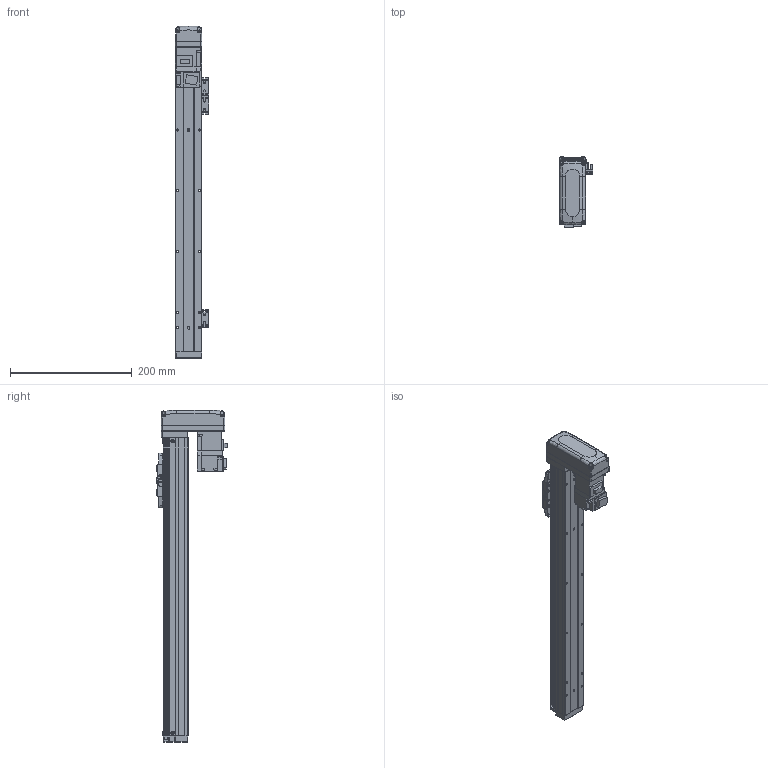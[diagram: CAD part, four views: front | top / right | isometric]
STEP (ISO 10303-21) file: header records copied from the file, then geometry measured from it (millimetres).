
FILE_DESCRIPTION (( 'STEP AP203' ), '1' );
FILE_NAME ('BTH40-350-BM-M05-C4.step', '2021-12-16T00:18:40', ( '微软用户' ), ( '微软中国' ), 'SwSTEP 2.0', 'SolidWorks 2020', '' );
FILE_SCHEMA (( 'CONFIG_CONTROL_DESIGN' ));
Length unit declared in the file: millimetre
Products named in the file (19): BTH40-006; BTH40-022; BTH50-026; BTH-M3X5X6; GBT 70.1-M2.5×6; BTH40-350-BM-M05-C4; GBT70.1-2000 M3×16; BTH40-004; BTH40-013; BTH50-028; BTH50-024; HG-KR13; BTH50-023; BTH40-001-50_BTH40-001-350; GBT 70.1-M3℅6; GBT 70.3-M3℅6; BTH40-003; GBT96.1-2002 3×0.8; BTH40-027-1
Assembly tree (47 placements, depth 2):
  BTH40-350-BM-M05-C4
    BTH40-001-50_BTH40-001-350
    BTH40-003
    BTH40-006
    BTH-M3X5X6  x8
    GBT70.1-2000 M3×16  x4
    BTH50-028  x2
    BTH50-023  x3
    BTH50-024  x3
    GBT 70.1-M3℅6  x6
    GBT96.1-2002 3×0.8  x6
    BTH40-022
    GBT 70.1-M2.5×6  x2
    BTH40-004
    BTH40-013
    HG-KR13
    GBT 70.3-M3℅6  x4
    BTH40-027-1
    BTH50-026
Bounding box: 55.2 x 115.8 x 546 mm (x, y, z)
Volume: 1056862.5 mm3; surface area: 196739 mm2
Topology: 49 solids, 49 shells, 1979 faces, 4647 edges, 2858 vertices
Faces by surface type: plane 1052, cylinder 491, cone 270, torus 128, bspline 34, sphere 4
Entity records: 39543 total; most frequent: CARTESIAN_POINT 7570, DIRECTION 6196, ORIENTED_EDGE 5940, EDGE_CURVE 2970, AXIS2_PLACEMENT_3D 2119, VECTOR 1958, LINE 1958, VERTEX_POINT 1845
